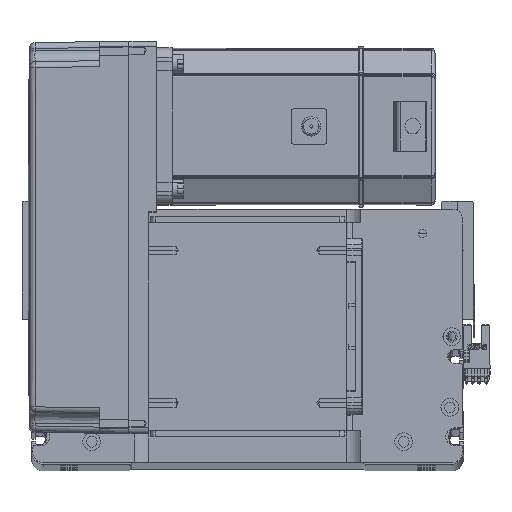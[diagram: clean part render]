
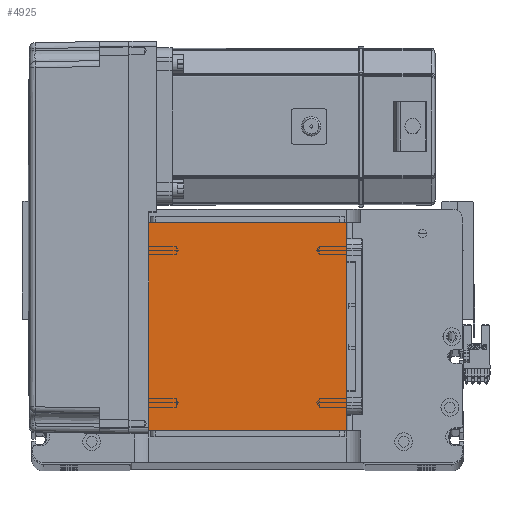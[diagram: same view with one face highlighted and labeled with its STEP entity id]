
A CAD part, top view. The second image highlights one B-rep face of the part: STEP entity #4925.
In plain terms, the highlighted planar face has unit normal (0, 0, 1).
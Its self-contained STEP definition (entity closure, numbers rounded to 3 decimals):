
#2144 = VECTOR ( 'NONE', #38793, 1000. ) ;
#2868 = EDGE_CURVE ( 'NONE', #7223, #14237, #29920, .T. ) ;
#4925 = ADVANCED_FACE ( 'NONE', ( #21819 ), #35976, .T. ) ;
#7223 = VERTEX_POINT ( 'NONE', #41697 ) ;
#10207 = EDGE_CURVE ( 'NONE', #52358, #7223, #49940, .T. ) ;
#10486 = ORIENTED_EDGE ( 'NONE', *, *, #28175, .T. ) ;
#10805 = CARTESIAN_POINT ( 'NONE',  ( -50.5, 122., 115. ) ) ;
#11534 = ORIENTED_EDGE ( 'NONE', *, *, #10207, .T. ) ;
#13021 = AXIS2_PLACEMENT_3D ( 'NONE', #44662, #23548, #53163 ) ;
#14237 = VERTEX_POINT ( 'NONE', #50075 ) ;
#17903 = DIRECTION ( 'NONE',  ( 0., 1., 0. ) ) ;
#20617 = ORIENTED_EDGE ( 'NONE', *, *, #42282, .T. ) ;
#21819 = FACE_OUTER_BOUND ( 'NONE', #34185, .T. ) ;
#21835 = CARTESIAN_POINT ( 'NONE',  ( 50.5, 122., 115. ) ) ;
#23548 = DIRECTION ( 'NONE',  ( 0., 0., 1. ) ) ;
#27278 = DIRECTION ( 'NONE',  ( -1., 0., 0. ) ) ;
#28175 = EDGE_CURVE ( 'NONE', #34792, #52358, #46542, .T. ) ;
#29920 = LINE ( 'NONE', #46535, #2144 ) ;
#31363 = VECTOR ( 'NONE', #27278, 1000. ) ;
#34185 = EDGE_LOOP ( 'NONE', ( #50325, #20617, #10486, #11534 ) ) ;
#34792 = VERTEX_POINT ( 'NONE', #48779 ) ;
#35273 = VECTOR ( 'NONE', #17903, 1000. ) ;
#35976 = PLANE ( 'NONE',  #13021 ) ;
#38531 = CARTESIAN_POINT ( 'NONE',  ( 50.5, 122., 115. ) ) ;
#38793 = DIRECTION ( 'NONE',  ( 0., -1., 0. ) ) ;
#41697 = CARTESIAN_POINT ( 'NONE',  ( -50.5, 122., 115. ) ) ;
#42282 = EDGE_CURVE ( 'NONE', #14237, #34792, #46815, .T. ) ;
#42989 = CARTESIAN_POINT ( 'NONE',  ( -50.5, 16., 115. ) ) ;
#43340 = DIRECTION ( 'NONE',  ( 1., 0., 0. ) ) ;
#44662 = CARTESIAN_POINT ( 'NONE',  ( 0., 0., 115. ) ) ;
#46535 = CARTESIAN_POINT ( 'NONE',  ( -50.5, 122., 115. ) ) ;
#46542 = LINE ( 'NONE', #21835, #35273 ) ;
#46815 = LINE ( 'NONE', #42989, #51407 ) ;
#48779 = CARTESIAN_POINT ( 'NONE',  ( 50.5, 16., 115. ) ) ;
#49940 = LINE ( 'NONE', #10805, #31363 ) ;
#50075 = CARTESIAN_POINT ( 'NONE',  ( -50.5, 16., 115. ) ) ;
#50325 = ORIENTED_EDGE ( 'NONE', *, *, #2868, .T. ) ;
#51407 = VECTOR ( 'NONE', #43340, 1000. ) ;
#52358 = VERTEX_POINT ( 'NONE', #38531 ) ;
#53163 = DIRECTION ( 'NONE',  ( 1., 0., 0. ) ) ;
